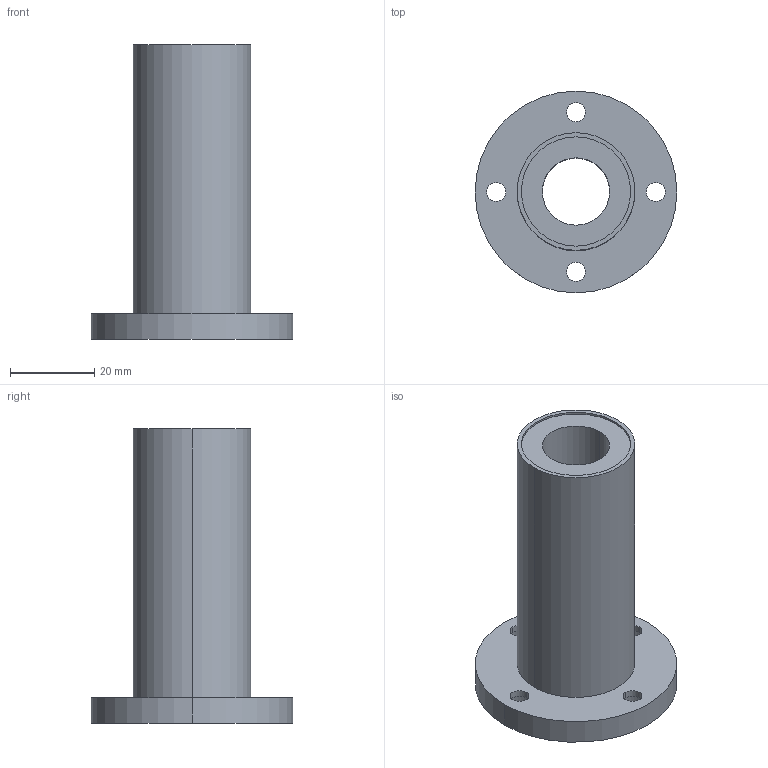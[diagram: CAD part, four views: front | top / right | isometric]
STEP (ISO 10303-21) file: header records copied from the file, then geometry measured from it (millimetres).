
FILE_DESCRIPTION((''),'2;1');
FILE_NAME('C:\Documents and Settings\ｿﾀﾀ蠑ｷ1\ｹﾙﾅﾁ ﾈｭｸ饅\ｺﾎﾇｰﾆﾄﾀﾏ\ﾁｦﾇｰ\LMF__LUU\LMF16LUU.stp','2005-06-15T09:42:24',('ｿﾀﾀ蠑ｷ1'),(''),'Autodesk Inventor 9','Autodesk Inventor 9','');
FILE_SCHEMA(('AUTOMOTIVE_DESIGN { 1 0 10303 214 1 1 1 1 }'));
Length unit declared in the file: millimetre
Products named in the file (1): LMF__
Bounding box: 48 x 48 x 70 mm (x, y, z)
Volume: 34816.4 mm3; surface area: 13712.1 mm2
Topology: 1 solids, 1 shells, 38 faces, 84 edges, 56 vertices
Faces by surface type: cylinder 28, plane 10
Entity records: 1127 total; most frequent: DIRECTION 218, CARTESIAN_POINT 179, ORIENTED_EDGE 168, AXIS2_PLACEMENT_3D 95, EDGE_CURVE 84, VERTEX_POINT 56, CIRCLE 56, EDGE_LOOP 56
